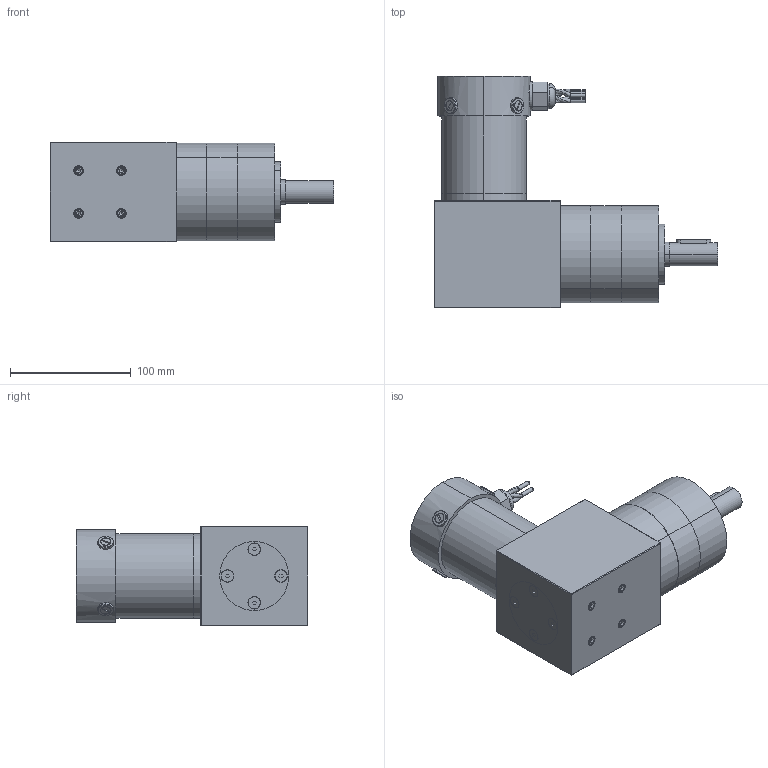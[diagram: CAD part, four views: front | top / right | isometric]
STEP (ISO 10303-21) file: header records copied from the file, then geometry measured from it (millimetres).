
FILE_DESCRIPTION (( 'STEP AP203' ), '1' );
FILE_NAME ('s27411agra2.step', '2018-12-07T20:04:33', ( '' ), ( '' ), 'SwSTEP 2.0', 'SolidWorks 2017', '' );
FILE_SCHEMA (( 'CONFIG_CONTROL_DESIGN' ));
Length unit declared in the file: inch
Products named in the file (1): s27411agra2
Bounding box: 235.03 x 192.02 x 82.55 mm (x, y, z)
Volume: 1639254.2 mm3; surface area: 200572.8 mm2
Topology: 29 solids, 29 shells, 1235 faces, 3099 edges, 1967 vertices
Faces by surface type: cylinder 715, plane 364, cone 93, torus 39, bspline 16, sphere 8
Entity records: 56780 total; most frequent: CARTESIAN_POINT 29771, ORIENTED_EDGE 6150, DIRECTION 5216, EDGE_CURVE 3075, AXIS2_PLACEMENT_3D 1967, VERTEX_POINT 1967, EDGE_LOOP 1340, LINE 1282
